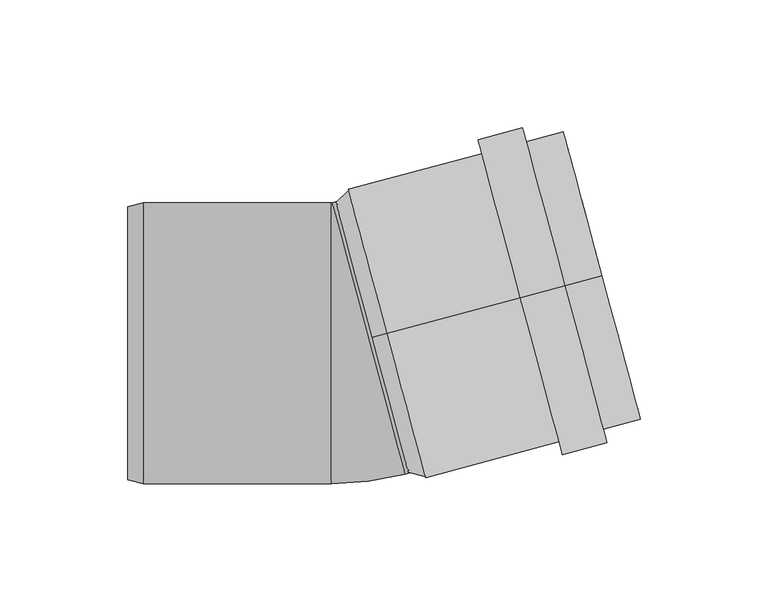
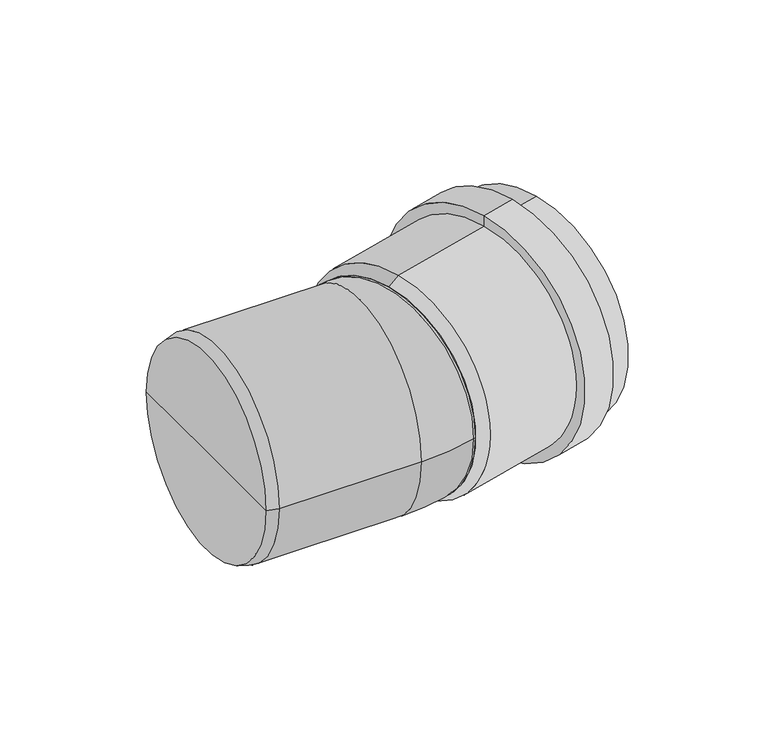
"""IFC4 building model written with IfcOpenShell, lengths in millimetres: pipe fitting geometry, OSMA_KG2000_PPKGB : Koleno 15°."""

from ifc_helpers import new_model, si_unit, point, frame, origin, place, context, project, spatial, polyline, circle_curve, ellipse_curve, trimmed, source, transform, mapped, element, save
from ifc_brep_helpers import plane_surface, cylinder_surface, revolved_surface, advanced_brep


def pipe_fitting_26f24fcf(model_context):
    return source(origin(), model_context, "Body", "AdvancedBrep", [
        advanced_brep(
        [(14.4888874, 3.8822857, 55.0), (14.4888874, 3.8822857, -55.0), (98.5244343, 26.3995426, -55.0), (98.5244343, 26.3995426, 55.0), (66.648882, 17.8585141, 58.4), (66.648882, 17.8585141, -58.4), (14.4888874, 3.8822857, -58.4), (14.4888874, 3.8822857, 58.4), (66.648882, 17.8585141, 64.0), (66.648882, 17.8585141, -64.0), (84.0355469, 22.5172569, 64.0), (84.0355469, 22.5172569, -64.0), (84.0355469, 22.5172569, 58.4), (84.0355469, 22.5172569, -58.4), (98.5244343, 26.3995426, 58.4), (98.5244343, 26.3995426, -58.4), (8.6933324, 2.3293714, 51.6), (8.6933324, 2.3293714, -51.6), (8.6933324, 2.3293714, 55.0), (8.6933324, 2.3293714, -55.0)],
        [
            (0, 1, circle_curve(frame((14.4888874, 3.8822857, 0.0), z_axis=(-0.9659258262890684, -0.2588190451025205, 0.0), x_axis=(0.0, 0.0, -1.0000000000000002)), 55.0)),
            (1, 2),
            (2, 3, circle_curve(frame((98.5244343, 26.3995426, 0.0), z_axis=(0.9659258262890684, 0.2588190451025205, 0.0), x_axis=(0.0, 0.0, -1.0000000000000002)), 55.0)),
            (3, 0),
            (1, 0, circle_curve(frame((14.4888874, 3.8822857, 0.0), z_axis=(-0.9659258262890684, -0.2588190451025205, 0.0), x_axis=(0.0, 0.0, -1.0000000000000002)), 55.0)),
            (3, 2, circle_curve(frame((98.5244343, 26.3995426, 0.0), z_axis=(0.9659258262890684, 0.2588190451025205, 0.0), x_axis=(0.0, 0.0, -1.0000000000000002)), 55.0)),
            (4, 5, circle_curve(frame((66.648882, 17.8585141, 0.0), z_axis=(-0.9659258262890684, -0.2588190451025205, 0.0), x_axis=(0.0, 0.0, -1.0000000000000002)), 58.4)),
            (5, 6),
            (6, 7, circle_curve(frame((14.4888874, 3.8822857, 0.0), z_axis=(0.9659258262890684, 0.2588190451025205, 0.0), x_axis=(0.0, 0.0, -1.0000000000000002)), 58.4)),
            (7, 4),
            (5, 4, circle_curve(frame((66.648882, 17.8585141, 0.0), z_axis=(-0.9659258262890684, -0.2588190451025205, 0.0), x_axis=(0.0, 0.0, -1.0000000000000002)), 58.4)),
            (7, 6, circle_curve(frame((14.4888874, 3.8822857, 0.0), z_axis=(0.9659258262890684, 0.2588190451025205, 0.0), x_axis=(0.0, 0.0, -1.0000000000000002)), 58.4)),
            (8, 9, circle_curve(frame((66.648882, 17.8585141, 0.0), z_axis=(-0.9659258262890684, -0.2588190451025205, 0.0), x_axis=(0.0, 0.0, -1.0000000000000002)), 64.0)),
            (9, 5),
            (4, 8),
            (9, 8, circle_curve(frame((66.648882, 17.8585141, 0.0), z_axis=(-0.9659258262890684, -0.2588190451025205, 0.0), x_axis=(0.0, 0.0, -1.0000000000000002)), 64.0)),
            (10, 11, circle_curve(frame((84.0355469, 22.5172569, 0.0), z_axis=(-0.9659258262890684, -0.2588190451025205, 0.0), x_axis=(0.0, 0.0, -1.0000000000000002)), 64.0)),
            (11, 9),
            (8, 10),
            (11, 10, circle_curve(frame((84.0355469, 22.5172569, 0.0), z_axis=(-0.9659258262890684, -0.2588190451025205, 0.0), x_axis=(0.0, 0.0, -1.0000000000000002)), 64.0)),
            (12, 13, circle_curve(frame((84.0355469, 22.5172569, 0.0), z_axis=(-0.9659258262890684, -0.2588190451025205, 0.0), x_axis=(0.0, 0.0, -1.0000000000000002)), 58.4)),
            (13, 11),
            (10, 12),
            (13, 12, circle_curve(frame((84.0355469, 22.5172569, 0.0), z_axis=(-0.9659258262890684, -0.2588190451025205, 0.0), x_axis=(0.0, 0.0, -1.0000000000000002)), 58.4)),
            (14, 15, circle_curve(frame((98.5244343, 26.3995426, 0.0), z_axis=(-0.9659258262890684, -0.2588190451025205, 0.0), x_axis=(0.0, 0.0, -1.0000000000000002)), 58.4)),
            (15, 13),
            (12, 14),
            (15, 14, circle_curve(frame((98.5244343, 26.3995426, 0.0), z_axis=(-0.9659258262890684, -0.2588190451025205, 0.0), x_axis=(0.0, 0.0, -1.0000000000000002)), 58.4)),
            (2, 15),
            (14, 3),
            (16, 17, circle_curve(frame((8.6933324, 2.3293714, 0.0), z_axis=(-0.9659258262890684, -0.2588190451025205, 0.0), x_axis=(0.0, 0.0, -1.0000000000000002)), 51.6)),
            (17, 1),
            (0, 16),
            (17, 16, circle_curve(frame((8.6933324, 2.3293714, 0.0), z_axis=(-0.9659258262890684, -0.2588190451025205, 0.0), x_axis=(0.0, 0.0, -1.0000000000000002)), 51.6)),
            (18, 19, circle_curve(frame((8.6933324, 2.3293714, 0.0), z_axis=(-0.9659258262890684, -0.2588190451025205, 0.0), x_axis=(0.0, 0.0, -1.0000000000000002)), 55.0)),
            (19, 17),
            (16, 18),
            (19, 18, circle_curve(frame((8.6933324, 2.3293714, 0.0), z_axis=(-0.9659258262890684, -0.2588190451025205, 0.0), x_axis=(0.0, 0.0, -1.0000000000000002)), 55.0)),
            (6, 19),
            (18, 7),
        ],
        [
            revolved_surface(polyline([(98.52443429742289, 26.399542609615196, -55.000000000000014), (14.48888740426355, 3.882285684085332, -55.000000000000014)]), (2677.0385258, 717.3103111, 0.0), (0.9659258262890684, 0.2588190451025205, 0.0)),
            cylinder_surface(frame((2677.0385258, 717.3103111, 0.0), z_axis=(0.9659258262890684, 0.2588190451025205, 0.0), x_axis=(0.0, 0.0, -1.0000000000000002)), 58.4),
            plane_surface(frame((66.648882, 17.8585141, 0.0), z_axis=(-0.9659258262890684, -0.2588190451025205, 0.0), x_axis=(0.0, 0.0, -1.0))),
            cylinder_surface(frame((2677.0385258, 717.3103111, 0.0), z_axis=(0.9659258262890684, 0.2588190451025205, 0.0), x_axis=(0.0, 0.0, -1.0000000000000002)), 64.0),
            plane_surface(frame((84.0355469, 22.5172569, 0.0), z_axis=(0.9659258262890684, 0.2588190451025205, 0.0), x_axis=(0.0, 0.0, -1.0))),
            plane_surface(frame((98.5244343, 26.3995426, 0.0), z_axis=(0.9659258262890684, 0.2588190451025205, 0.0), x_axis=(0.0, 0.0, -1.0))),
            revolved_surface(polyline([(14.4888874, 3.8822857, -55.0), (8.6933324, 2.3293714, -51.6)]), (2677.0385258, 717.3103111, 0.0), (0.9659258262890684, 0.2588190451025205, 0.0)),
            plane_surface(frame((8.6933324, 2.3293714, 0.0), z_axis=(-0.9659258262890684, -0.2588190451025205, 0.0), x_axis=(0.0, 0.0, -1.0))),
            revolved_surface(polyline([(8.6933324, 2.3293714, -55.0), (14.4888874, 3.8822857, -58.4)]), (2677.0385258, 717.3103111, 0.0), (0.9659258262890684, 0.2588190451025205, 0.0)),
        ],
        [
            (0, [[1, 2, 3, 4]]),
            (0, [[5, -4, 6, -2]]),
            (1, [[7, 8, 9, 10]]),
            (1, [[11, -10, 12, -8]]),
            (2, [[13, 14, -7, 15]]),
            (2, [[16, -15, -11, -14]]),
            (3, [[17, 18, -13, 19]]),
            (3, [[20, -19, -16, -18]]),
            (4, [[21, 22, -17, 23]]),
            (4, [[24, -23, -20, -22]]),
            (1, [[25, 26, -21, 27]]),
            (1, [[28, -27, -24, -26]]),
            (5, [[-3, 29, -25, 30]]),
            (5, [[-6, -30, -28, -29]]),
            (6, [[31, 32, -1, 33]]),
            (6, [[34, -33, -5, -32]]),
            (7, [[35, 36, -31, 37]]),
            (7, [[38, -37, -34, -36]]),
            (8, [[-9, 39, -35, 40]]),
            (8, [[-12, -40, -38, -39]]),
        ],
    ),
        advanced_brep(
        [(-87.0, 0.0, 0.0), (-87.0, 53.3923048, 0.0), (-87.0, -53.3923048, 0.0), (-81.0, 55.0, 0.0), (-81.0, -55.0, 0.0), (-7.0501375, 55.0511113, 0.0), (-7.4383661, 55.0, 0.0), (-7.4383661, -55.0, 0.0), (21.4199574, -51.2007296, 0.0), (7.1849099, 1.9251908, 55.0), (7.1849099, 1.9251908, -55.0), (28.7239349, -49.2436348, 0.0), (0.2538399, 57.0082061, 0.0)],
        [
            (0, 1),
            (1, 2, circle_curve(frame((-87.0, 0.0, 0.0), z_axis=(-1.0, 0.0, 0.0), x_axis=(0.0, 1.0, 0.0)), 53.3923048)),
            (2, 0),
            (2, 1, circle_curve(frame((-87.0, 0.0, 0.0), z_axis=(-1.0, 0.0, 0.0), x_axis=(0.0, 1.0, 0.0)), 53.3923048)),
            (1, 3),
            (3, 4, circle_curve(frame((-81.0, 0.0, 0.0), z_axis=(-1.0, 0.0, 0.0), x_axis=(0.0, 1.0, 0.0)), 55.0)),
            (4, 2),
            (4, 3, circle_curve(frame((-81.0, 0.0, 0.0), z_axis=(-1.0, 0.0, 0.0), x_axis=(0.0, 1.0, 0.0)), 55.0)),
            (5, 6, circle_curve(frame((-7.4383661, 56.5, 0.0), z_axis=(0.0, 0.0, -1.0), x_axis=(0.0, -1.0, 0.0)), 1.5)),
            (6, 7, circle_curve(frame((-7.4383661, 0.0, 0.0), z_axis=(1.0, 0.0, 0.0), x_axis=(0.0, 1.0, 0.0)), 55.0)),
            (7, 8, circle_curve(frame((-7.4383661, 56.5, 0.0), z_axis=(0.0, 0.0, 1.0), x_axis=(0.0, -1.0, 0.0)), 111.5)),
            (8, 9, circle_curve(frame((7.1849099, 1.9251908, 0.0), z_axis=(-0.9659258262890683, -0.2588190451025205, 0.0), x_axis=(-0.2588190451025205, 0.9659258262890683, 0.0)), 55.0)),
            (9, 5, circle_curve(frame((7.1849099, 1.9251908, 0.0), z_axis=(-0.9659258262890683, -0.2588190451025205, 0.0), x_axis=(-0.2588190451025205, 0.9659258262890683, 0.0)), 55.0)),
            (5, 10, circle_curve(frame((7.1849099, 1.9251908, 0.0), z_axis=(-0.9659258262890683, -0.2588190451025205, 0.0), x_axis=(-0.2588190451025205, 0.9659258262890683, 0.0)), 55.0)),
            (10, 8, circle_curve(frame((7.1849099, 1.9251908, 0.0), z_axis=(-0.9659258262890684, -0.2588190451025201, 0.0), x_axis=(-0.2588190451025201, 0.9659258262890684, 0.0)), 55.0)),
            (7, 6, circle_curve(frame((-7.4383661, 0.0, 0.0), z_axis=(1.0, 0.0, 0.0), x_axis=(0.0, 1.0, 0.0)), 55.0)),
            (3, 6),
            (7, 4),
            (11, 12, circle_curve(frame((14.4888874, 3.8822857, 0.0), z_axis=(0.9659258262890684, 0.2588190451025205, 0.0), x_axis=(-0.2588190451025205, 0.9659258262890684, 0.0)), 55.0)),
            (12, 11, circle_curve(frame((14.4888874, 3.8822857, 0.0), z_axis=(0.9659258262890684, 0.2588190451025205, 0.0), x_axis=(-0.2588190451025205, 0.9659258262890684, 0.0)), 55.0)),
            (12, 5),
            (8, 11),
        ],
        [
            plane_surface(frame((-87.0, 0.0, 0.0), z_axis=(-1.0, 0.0, 0.0), x_axis=(0.0, 1.0, 0.0))),
            revolved_surface(polyline([(-81.0, 55.0, 0.0), (-87.0, 53.3923048, 0.0)]), (331.0587718, 0.0, 0.0), (-1.0, 0.0, 0.0)),
            revolved_surface(trimmed(ellipse_curve(frame((-7.4383661, 0.0, 0.0), z_axis=(-1.0, 0.0, 0.0), x_axis=(0.0, 1.0, 0.0)), 55.0, 55.0), [point((-7.4383661, -55.0, 0.0))], [point((-7.4383661, 55.0, 0.0))], True, "CARTESIAN"), (-7.4383661, 56.5, 0.0), (0.0, 0.0, 1.0)),
            revolved_surface(trimmed(ellipse_curve(frame((-7.4383661, 0.0, 0.0), z_axis=(-1.0, 0.0, 0.0), x_axis=(0.0, 1.0, 0.0)), 55.0, 55.0), [point((-7.4383661, 55.0, 0.0))], [point((-7.4383661, -55.0, 0.0))], True, "CARTESIAN"), (-7.4383661, 56.5, 0.0), (0.0, 0.0, 1.0)),
            cylinder_surface(frame((331.0587718, 0.0, 0.0), z_axis=(-1.0, 0.0, 0.0), x_axis=(0.0, 1.0, 0.0)), 55.0),
            plane_surface(frame((14.4888874, 3.8822857, 0.0), z_axis=(0.9659258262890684, 0.2588190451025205, 0.0), x_axis=(0.0, 0.0, 1.0))),
            cylinder_surface(frame((7.1849099, 1.9251908, 0.0), z_axis=(-0.9659258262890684, -0.2588190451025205, 0.0), x_axis=(-0.2588190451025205, 0.9659258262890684, 0.0)), 55.0),
        ],
        [
            (0, [[1, 2, 3]]),
            (0, [[-1, -3, 4]]),
            (1, [[-2, 5, 6, 7]]),
            (1, [[-4, -7, 8, -5]]),
            (2, [[9, 10, 11, 12, 13]]),
            (3, [[-9, 14, 15, -11, 16]]),
            (4, [[-6, 17, -16, 18]]),
            (4, [[-8, -18, -10, -17]]),
            (5, [[19, 20]]),
            (6, [[-20, 21, -13, -12, 22]]),
            (6, [[-19, -22, -15, -14, -21]]),
        ],
    ),
    ])


if __name__ == "__main__":
    model = new_model("IFC4")
    model_context = context("Model", 3, world=origin())
    ifc_project = project(units=[si_unit("LENGTHUNIT", "METRE", prefix="MILLI")], contexts=[model_context])
    site = spatial("IfcSite", under=ifc_project)
    building = spatial("IfcBuilding", under=site)
    placement = place(None, origin())
    pipe_fitting_shape = pipe_fitting_26f24fcf(model_context)
    element("IfcPipeFitting", 1, ObjectType="OSMA_KG2000_PPKGB : Koleno 15°", at=placement, inside=building, context=model_context, shape_type="MappedRepresentation", body=[
        mapped(pipe_fitting_shape, transform((0.0, 0.0, 0.0), x_axis=(1.0, 0.0, 0.0), y_axis=(0.0, 1.0, 0.0), z_axis=(0.0, 0.0, 1.0))),
    ])
    save(model, "model.ifc")
